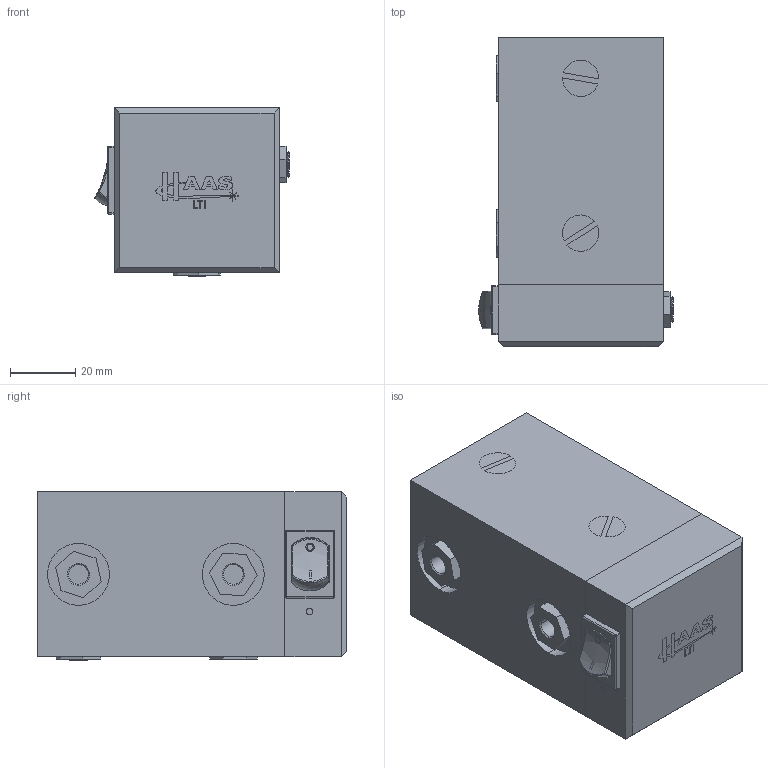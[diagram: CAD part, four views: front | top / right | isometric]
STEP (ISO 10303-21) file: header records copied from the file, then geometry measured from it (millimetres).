
FILE_DESCRIPTION (( 'STEP AP214' ), '1' );
FILE_NAME ('DPM-UNIV.STEP', '2017-12-04T15:36:43', ( '' ), ( '' ), 'SwSTEP 2.0', 'SolidWorks 2017', '' );
FILE_SCHEMA (( 'AUTOMOTIVE_DESIGN' ));
Length unit declared in the file: inch
Products named in the file (1): DPM-UNIV
Bounding box: 59.91 x 95.25 x 51.79 mm (x, y, z)
Volume: 242520.7 mm3; surface area: 28543.1 mm2
Topology: 1 solids, 5 shells, 201 faces, 517 edges, 363 vertices
Faces by surface type: plane 103, cylinder 60, cone 20, sphere 10, torus 6, bspline 2
Entity records: 6895 total; most frequent: CARTESIAN_POINT 1891, ORIENTED_EDGE 1018, DIRECTION 1002, EDGE_CURVE 509, VERTEX_POINT 363, AXIS2_PLACEMENT_3D 343, VECTOR 316, LINE 316
